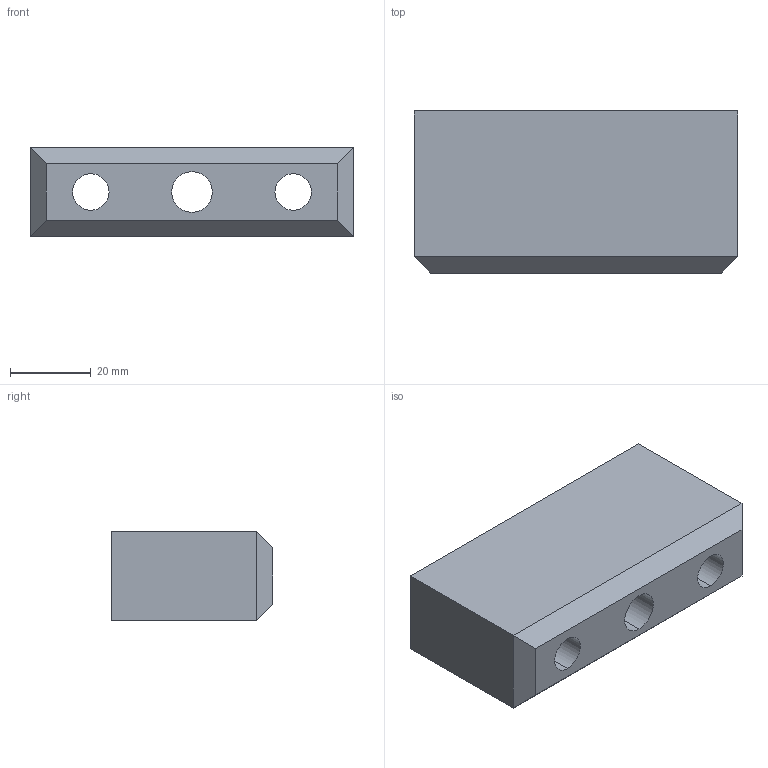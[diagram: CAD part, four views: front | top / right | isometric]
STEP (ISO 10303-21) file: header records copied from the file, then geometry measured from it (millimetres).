
FILE_DESCRIPTION(('CATIA V5 STEP Exchange'),'2;1');
FILE_NAME('C:\Users\Raffaele\Desktop\3D X SITO CF\761\GSB_OILLESS_M31705040080\STEP-2.03\761-040080.stp','2019-07-05T06:39:36+00:00',('none'),('none'),'CATIA Version 5 Release 20 GA (IN-10)','CATIA V5 STEP AP203','none');
FILE_SCHEMA(('CONFIG_CONTROL_DESIGN'));
Length unit declared in the file: millimetre
Products named in the file (1): 761-040080
Bounding box: 80 x 40 x 22 mm (x, y, z)
Volume: 55218.8 mm3; surface area: 15162.2 mm2
Topology: 1 solids, 1 shells, 25 faces, 80 edges, 60 vertices
Faces by surface type: plane 13, cylinder 12
Entity records: 1074 total; most frequent: CARTESIAN_POINT 316, ORIENTED_EDGE 160, DIRECTION 118, EDGE_CURVE 80, AXIS2_PLACEMENT_3D 62, VERTEX_POINT 60, CIRCLE 36, EDGE_LOOP 34
